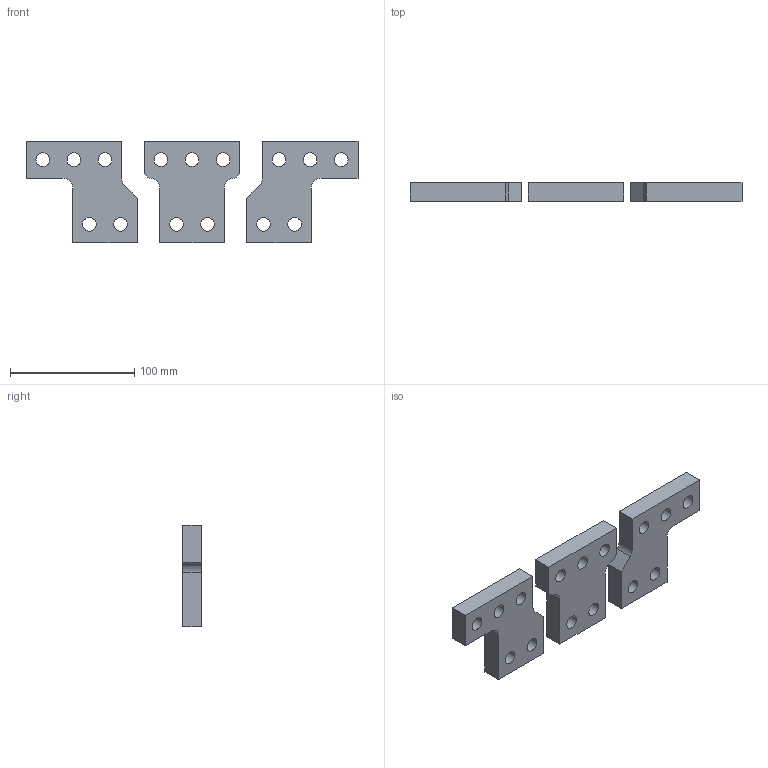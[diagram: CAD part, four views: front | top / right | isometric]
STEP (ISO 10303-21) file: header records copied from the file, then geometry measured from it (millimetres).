
FILE_DESCRIPTION (( 'STEP AP203' ), '1' );
FILE_NAME ('BE ACW1600.STEP', '2021-11-10T12:39:39', ( '' ), ( '' ), 'SwSTEP 2.0', 'SolidWorks 2018', '' );
FILE_SCHEMA (( 'CONFIG_CONTROL_DESIGN' ));
Length unit declared in the file: millimetre
Products named in the file (1): BE ACW1600
Bounding box: 267 x 15 x 82 mm (x, y, z)
Volume: 201216.7 mm3; surface area: 49158 mm2
Topology: 3 solids, 3 shells, 68 faces, 186 edges, 124 vertices
Faces by surface type: cylinder 36, plane 32
Entity records: 2315 total; most frequent: DIRECTION 396, CARTESIAN_POINT 379, ORIENTED_EDGE 372, EDGE_CURVE 186, AXIS2_PLACEMENT_3D 141, VERTEX_POINT 124, VECTOR 114, LINE 114
